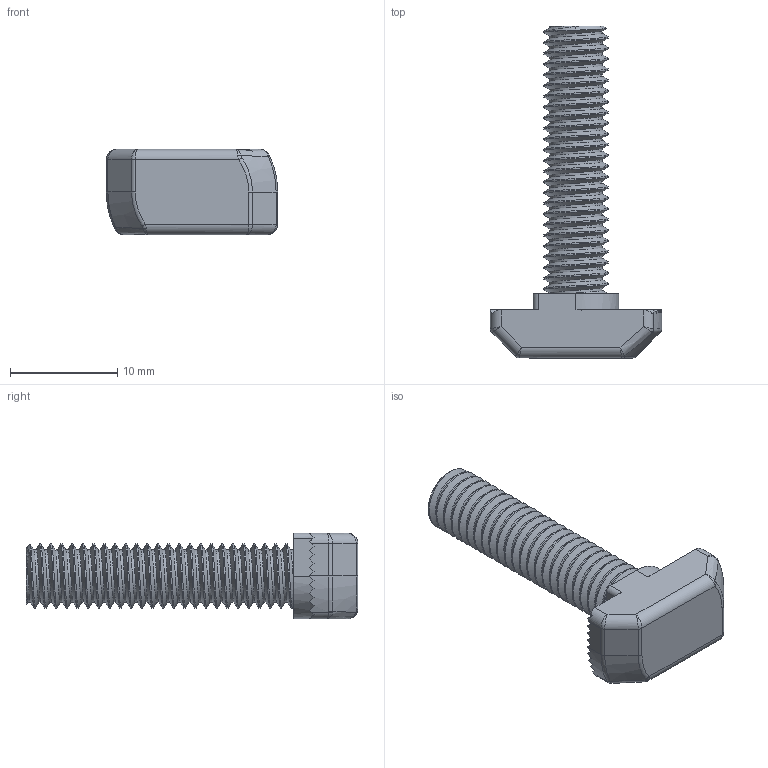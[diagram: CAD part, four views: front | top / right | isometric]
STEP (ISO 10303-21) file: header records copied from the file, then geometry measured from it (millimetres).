
FILE_DESCRIPTION (( 'STEP AP214' ), '1' );
FILE_NAME ('Drop In Bolt - T-Slot - 30 Series - M6 - 25mm.STEP', '2024-09-29T21:43:47', ( '' ), ( '' ), 'SwSTEP 2.0', 'SolidWorks 2024', '' );
FILE_SCHEMA (( 'AUTOMOTIVE_DESIGN' ));
Length unit declared in the file: millimetre
Products named in the file (1): Drop In Bolt - T-Slot - 30 Series - M6 - 25mm
Bounding box: 16 x 31 x 8 mm (x, y, z)
Volume: 1147.8 mm3; surface area: 1169.3 mm2
Topology: 1 solids, 1 shells, 152 faces, 418 edges, 262 vertices
Faces by surface type: cylinder 68, plane 57, bspline 18, cone 5, torus 4
Entity records: 9385 total; most frequent: CARTESIAN_POINT 6154, ORIENTED_EDGE 820, DIRECTION 517, EDGE_CURVE 410, VERTEX_POINT 262, LINE 181, VECTOR 181, AXIS2_PLACEMENT_3D 168
